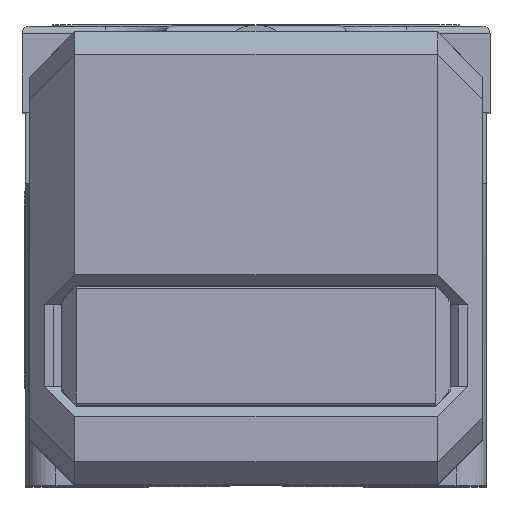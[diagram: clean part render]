
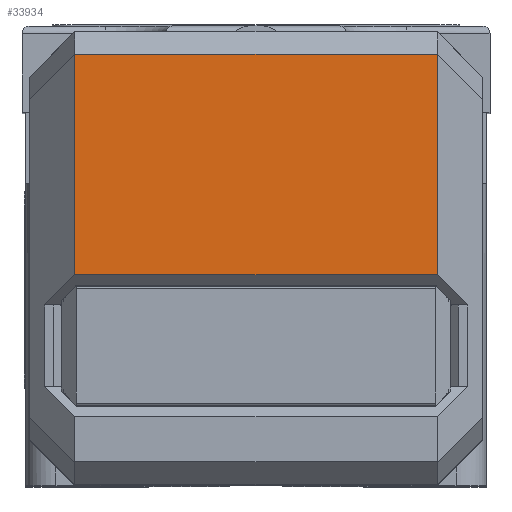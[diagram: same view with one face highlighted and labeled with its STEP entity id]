
A CAD part, top view. The second image highlights one B-rep face of the part: STEP entity #33934.
In plain terms, the highlighted planar face has unit normal (0, 0, 1).
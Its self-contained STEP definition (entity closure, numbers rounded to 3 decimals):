
#8760=DIRECTION('',(0.,1.,0.));
#8761=VECTOR('',#8760,14.6);
#8762=CARTESIAN_POINT('',(-12.,3.9,38.));
#8763=LINE('',#8762,#8761);
#8788=DIRECTION('',(0.,-1.,0.));
#8789=VECTOR('',#8788,14.6);
#8790=CARTESIAN_POINT('',(12.,18.5,38.));
#8791=LINE('',#8790,#8789);
#8823=DIRECTION('',(1.,0.,0.));
#8824=VECTOR('',#8823,24.);
#8825=CARTESIAN_POINT('',(-12.,3.9,38.));
#8826=LINE('',#8825,#8824);
#8830=DIRECTION('',(1.,0.,0.));
#8831=VECTOR('',#8830,24.);
#8832=CARTESIAN_POINT('',(-12.,18.5,38.));
#8833=LINE('',#8832,#8831);
#24257=CARTESIAN_POINT('',(-12.,18.5,38.));
#24258=CARTESIAN_POINT('',(12.,18.5,38.));
#24259=VERTEX_POINT('',#24257);
#24260=VERTEX_POINT('',#24258);
#24337=CARTESIAN_POINT('',(-12.,3.9,38.));
#24338=CARTESIAN_POINT('',(12.,3.9,38.));
#24339=VERTEX_POINT('',#24337);
#24340=VERTEX_POINT('',#24338);
#33922=CARTESIAN_POINT('',(0.,-10.,38.));
#33923=DIRECTION('',(0.,0.,-1.));
#33924=DIRECTION('',(1.,0.,0.));
#33925=AXIS2_PLACEMENT_3D('',#33922,#33923,#33924);
#33926=PLANE('',#33925);
#33927=ORIENTED_EDGE('',*,*,#30136,.F.);
#33928=ORIENTED_EDGE('',*,*,#33829,.T.);
#33930=ORIENTED_EDGE('',*,*,#33929,.T.);
#33931=ORIENTED_EDGE('',*,*,#33897,.T.);
#33932=EDGE_LOOP('',(#33927,#33928,#33930,#33931));
#33933=FACE_OUTER_BOUND('',#33932,.F.);
#30136=EDGE_CURVE('',#24339,#24340,#8826,.T.);
#33829=EDGE_CURVE('',#24339,#24259,#8763,.T.);
#33897=EDGE_CURVE('',#24260,#24340,#8791,.T.);
#33929=EDGE_CURVE('',#24259,#24260,#8833,.T.);
#33934=ADVANCED_FACE('',(#33933),#33926,.F.);
